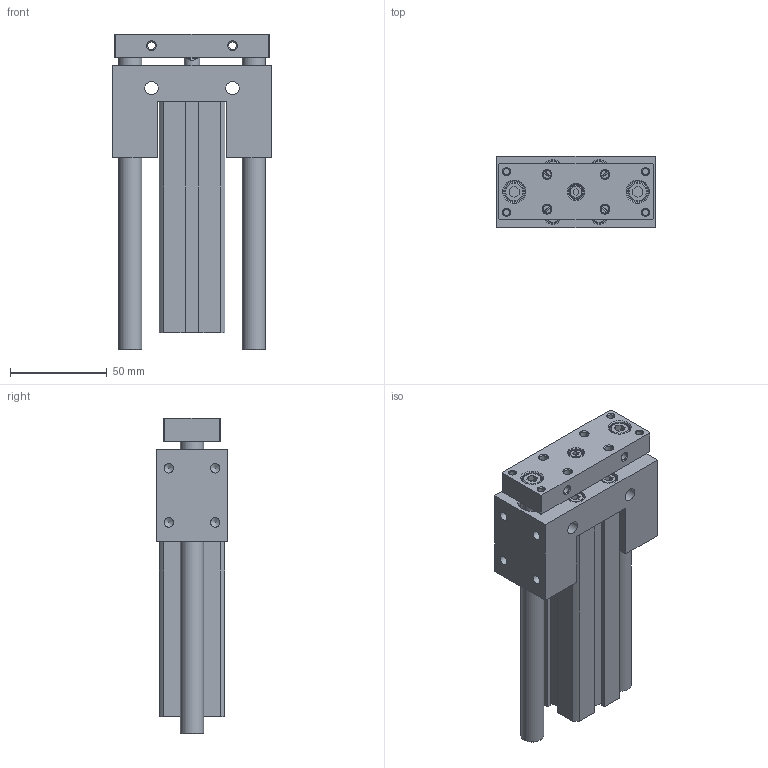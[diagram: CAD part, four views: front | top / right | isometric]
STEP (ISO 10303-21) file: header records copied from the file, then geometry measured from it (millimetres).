
FILE_DESCRIPTION((''),'2;1');
FILE_NAME('I:\3D電子目錄\氣缸\JCB\JCB\JCB20\JCB20x100.stp','2007-08-21T18:20:33',('Administrator'),(''),'Autodesk Inventor 11','Autodesk Inventor 11','');
FILE_SCHEMA(('AUTOMOTIVE_DESIGN { 1 0 10303 214 1 1 1 1 }'));
Length unit declared in the file: millimetre
Products named in the file (1): JCB20
Bounding box: 82 x 37 x 163.5 mm (x, y, z)
Volume: 258831 mm3; surface area: 80067.8 mm2
Topology: 5 solids, 5 shells, 293 faces, 643 edges, 415 vertices
Faces by surface type: plane 150, bspline 53, cylinder 45, cone 37, torus 8
Full cylindrical faces by diameter (mm): 1.5 x2, 4.3 x4, 4.917 x4, 7 x9, 8 x1, 8.5 x4, 9 x1, 10 x2, 12 x2, 13 x2, 14 x2, 22 x4, 23.2 x2
Entity records: 7875 total; most frequent: CARTESIAN_POINT 1985, DIRECTION 1184, ORIENTED_EDGE 992, EDGE_LOOP 504, EDGE_CURVE 496, AXIS2_PLACEMENT_3D 447, VERTEX_POINT 394, FACE_OUTER_BOUND 293
